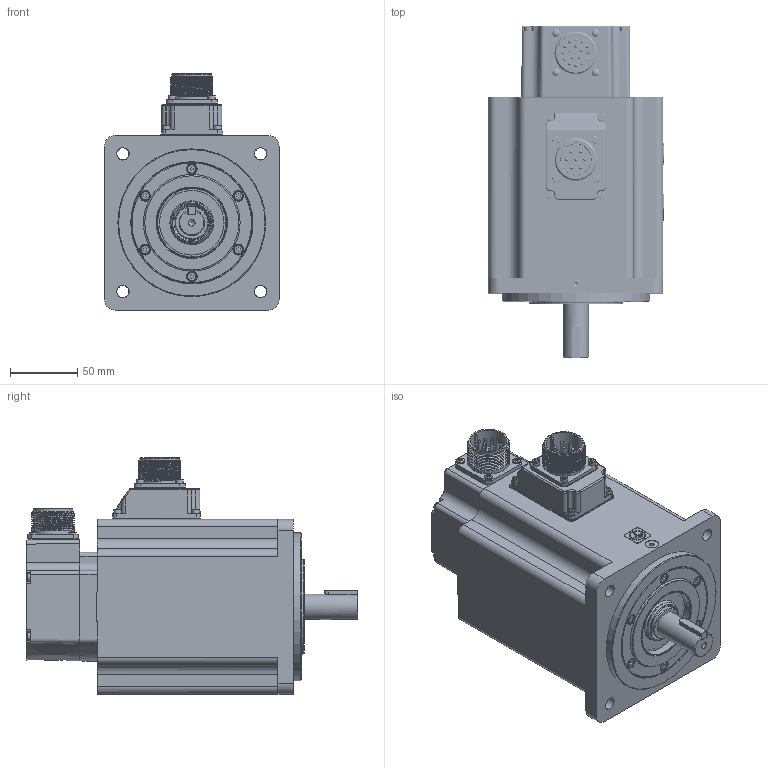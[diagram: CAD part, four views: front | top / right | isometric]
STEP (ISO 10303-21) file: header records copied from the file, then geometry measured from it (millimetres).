
FILE_DESCRIPTION( ( 'Unknown' ), '1' );
FILE_NAME( 'U:/05_Progetto TCE/010-TCE motor drawings/TCE130/Vuoti/TCE130 5D XX 3 A1 0 C3.stp', 'Unknown', ( 'Unknown' ), ( 'Unknown' ), 'PSStep 17.0.49', 'Unknown', ' ' );
FILE_SCHEMA( ( 'AUTOMOTIVE_DESIGN { 1 0 10303 214 1 1 1 1 }' ) );
Length unit declared in the file: millimetre
Products named in the file (14): 005123001528
Bounding box: 130.3 x 247 x 175.8 mm (x, y, z)
Volume: 1074106.6 mm3; surface area: 334222.4 mm2
Topology: 17 solids, 96 shells, 2979 faces, 7446 edges, 4834 vertices
Faces by surface type: plane 1556, cylinder 689, extrusion 233, cone 151, torus 141, bspline 137, sphere 72
Full cylindrical faces by diameter (mm): 2 x34, 2.224 x1, 2.4 x8, 2.459 x24, 2.5 x1, 2.6 x1, 2.8 x7, 2.9 x4, 3 x30, 3.048 x4, 3.2 x5, 3.242 x24, 3.5 x11, 3.6 x1, 3.7 x8, 3.8 x2, 4 x23, 4.134 x16, 4.5 x6, 4.7 x11, 4.917 x2, 5 x8, 5.1 x1, 5.5 x34, 5.6 x4, 5.8 x6, 7 x10, 8 x13, 8.5 x8, 10 x1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
Entity records: 125728 total; most frequent: CARTESIAN_POINT 40990, ORIENTED_EDGE 12654, DIRECTION 12638, EDGE_CURVE 6327, VERTEX_POINT 4482, AXIS2_PLACEMENT_3D 4404, EDGE_LOOP 3976, VECTOR 3830
